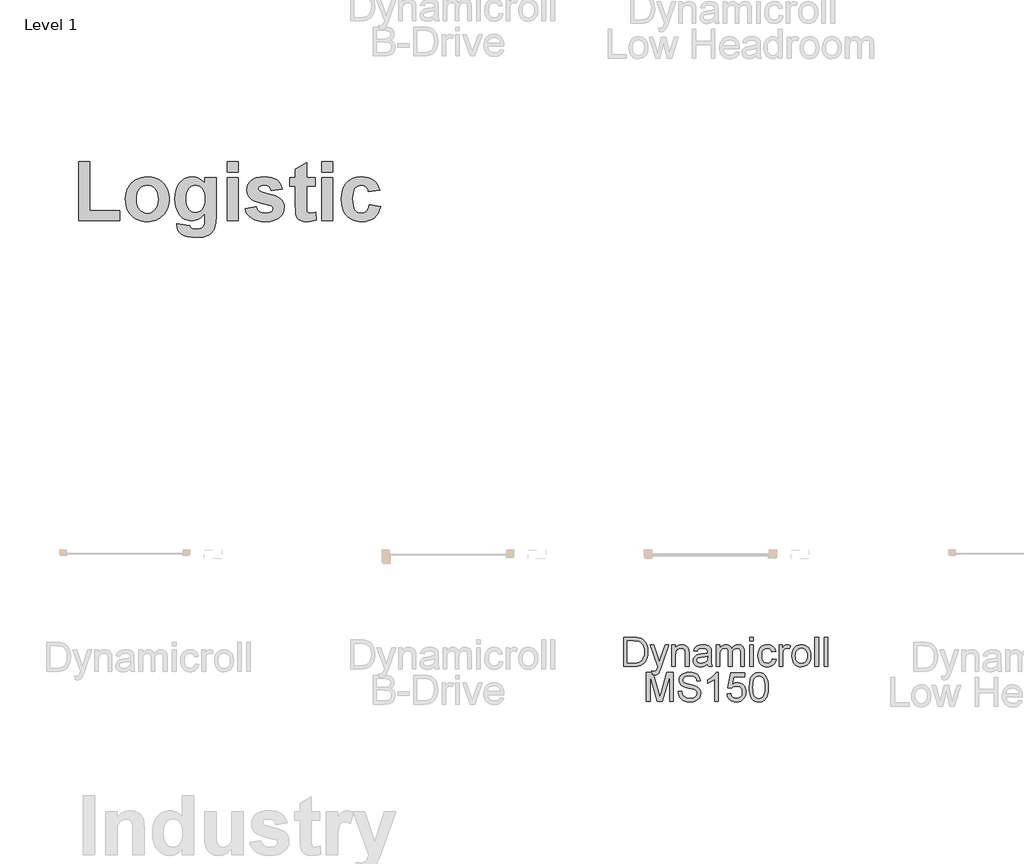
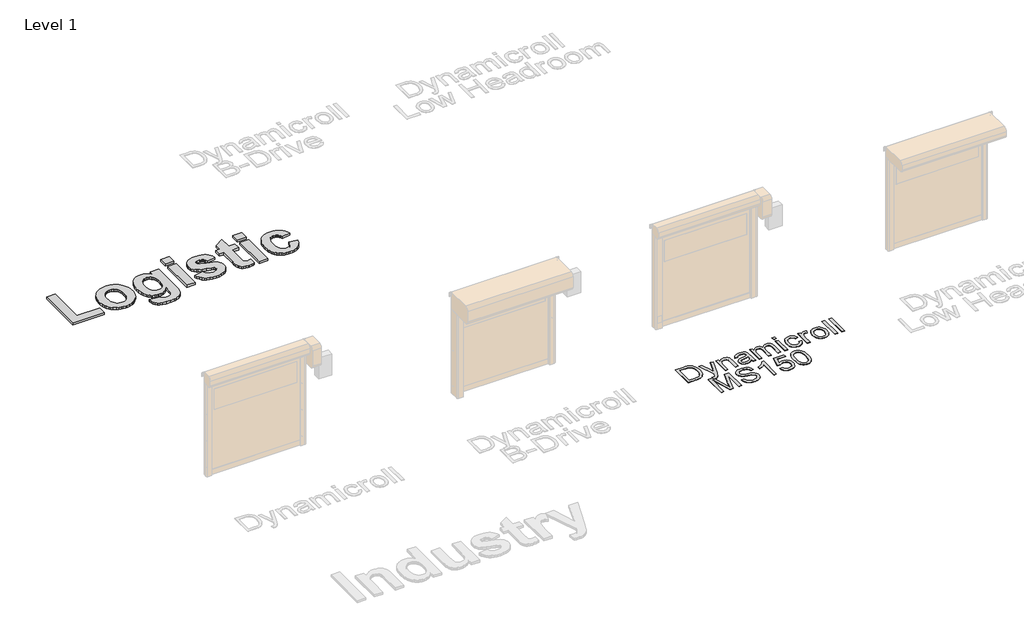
# One storey, part 7 of 17: 2 proxies.
"""IFC4 building model written with IfcOpenShell, lengths in millimetres."""

import ifcopenshell
import ifcopenshell.guid

model = None  # the IFC model being written
_history = None  # IfcOwnerHistory: only IFC2X3 demands one
_inside = {}  # id of a spatial element -> (the spatial element, [elements in it])
_under = {}  # id of a project, library or spatial element -> (it, [spatial elements below it])
_declared = {}  # id of a project -> (the project, [libraries it declares])
_typed = {}  # id of a type object -> (the type object, [elements of that type])
_made_of = {}  # id of a material, layer set ... -> (it, [elements and type objects made of it])


def new_model(schema):
    """Start an empty IFC model of exactly this schema.

    Asked for "IFC4X3", IfcOpenShell would pick the latest addendum, in which some entities
    have other attributes; the version numbers below select the first issue.
    IFC2X3 requires an IfcOwnerHistory on every rooted entity: one is made here for all.
    """
    global model, _history
    if schema == "IFC4X3":
        model = ifcopenshell.file(schema_version=(4, 3, 0, 0))
    else:
        model = ifcopenshell.file(schema=schema)
    _inside.clear()
    _under.clear()
    _declared.clear()
    _typed.clear()
    _made_of.clear()
    _history = None
    if model.schema == "IFC2X3":
        org = make("IfcOrganization", Name="unknown")
        user = make(
            "IfcPersonAndOrganization",
            ThePerson=make("IfcPerson", FamilyName="unknown"),
            TheOrganization=org,
        )
        app = make(
            "IfcApplication",
            ApplicationDeveloper=org,
            Version="unknown",
            ApplicationFullName="unknown",
            ApplicationIdentifier="unknown",
        )
        _history = make(
            "IfcOwnerHistory",
            OwningUser=user,
            OwningApplication=app,
            ChangeAction="ADDED",
            CreationDate=0,
        )
    return model


def make(cls, **values):
    """One entity of the class cls with the attributes given. An attribute that is None is left unset."""
    return model.create_entity(
        cls, **{name: value for name, value in values.items() if value is not None}
    )


def rooted(cls, **values):
    """An entity with a GlobalId (a new one), such as an element, a storey or a relation."""
    return make(cls, GlobalId=ifcopenshell.guid.new(), OwnerHistory=_history, **values)


def si_unit(unit_type, name, prefix=None):
    """IfcSIUnit, for example si_unit("LENGTHUNIT", "METRE", prefix="MILLI")."""
    return make("IfcSIUnit", UnitType=unit_type, Prefix=prefix, Name=name)


def assignment(units):
    """IfcUnitAssignment: the units of a project."""
    return None if units is None else make("IfcUnitAssignment", Units=units)


def point(xyz):
    """IfcCartesianPoint."""
    return None if xyz is None else make("IfcCartesianPoint", Coordinates=xyz)


def direction(xyz):
    """IfcDirection."""
    return None if xyz is None else make("IfcDirection", DirectionRatios=xyz)


def frame(location, z_axis=None, x_axis=None):
    """IfcAxis2Placement3D, a coordinate frame: its origin and axes. An axis left out is left unset."""
    return make(
        "IfcAxis2Placement3D",
        Location=point(location),
        Axis=direction(z_axis),
        RefDirection=direction(x_axis),
    )


def origin():
    """The frame at (0, 0, 0) with its axes left unset."""
    return frame((0.0, 0.0, 0.0))


def origin_with_axes():
    """The frame at (0, 0, 0) with the z axis (0, 0, 1) and the x axis (1, 0, 0) written out."""
    return frame((0.0, 0.0, 0.0), z_axis=(0.0, 0.0, 1.0), x_axis=(1.0, 0.0, 0.0))


def place(relative_to, where):
    """IfcLocalPlacement: puts the frame where relative to a parent placement (None: the world)."""
    return make(
        "IfcLocalPlacement", PlacementRelTo=relative_to, RelativePlacement=where
    )


def context(
    kind, dimensions, precision=None, world=None, true_north=None, identifier=None
):
    """IfcGeometricRepresentationContext, for example the 3D "Model" context."""
    return make(
        "IfcGeometricRepresentationContext",
        ContextIdentifier=identifier,
        ContextType=kind,
        CoordinateSpaceDimension=dimensions,
        Precision=precision,
        WorldCoordinateSystem=world,
        TrueNorth=true_north,
    )


def project(units=None, contexts=None):
    """IfcProject with its units and contexts."""
    return rooted(
        "IfcProject",
        Name="project",
        RepresentationContexts=contexts,
        UnitsInContext=assignment(units),
    )


def spatial(cls, under=None, at=None, **own):
    """A site, building, storey or space (cls), placed at a placement, below another one or the project."""
    s = rooted(cls, ObjectPlacement=at, **own)
    if under is not None:
        _under.setdefault(under.id(), (under, []))[1].append(s)
    return s


def polyline(points):
    """IfcPolyline through the points."""
    return make("IfcPolyline", Points=[point(p) for p in points])


def outline(outer, holes=None, kind="AREA"):
    """IfcArbitraryClosedProfileDef: a profile drawn as a closed curve; with holes, ...WithVoids."""
    if holes is None:
        return make("IfcArbitraryClosedProfileDef", ProfileType=kind, OuterCurve=outer)
    return make(
        "IfcArbitraryProfileDefWithVoids",
        ProfileType=kind,
        OuterCurve=outer,
        InnerCurves=holes,
    )


def extrude(swept, where, along, depth):
    """IfcExtrudedAreaSolid: the profile swept, set in the frame where, extruded along a direction by depth."""
    return make(
        "IfcExtrudedAreaSolid",
        SweptArea=swept,
        Position=where,
        ExtrudedDirection=direction(along),
        Depth=depth,
    )


def shape(context_of_items, identifier, shape_type, items):
    """IfcShapeRepresentation: the items that make up one representation, for example the "Body"."""
    return make(
        "IfcShapeRepresentation",
        ContextOfItems=context_of_items,
        RepresentationIdentifier=identifier,
        RepresentationType=shape_type,
        Items=items,
    )


def made_of(thing, what):
    """Note that an element or type object is made of a material, layer set ...; save() writes the relation."""
    if what is not None:
        _made_of.setdefault(what.id(), (what, []))[1].append(thing)
    return thing


def element(
    cls,
    number,
    at=None,
    inside=None,
    cuts=None,
    type_object=None,
    material=None,
    context=None,
    identifier="Body",
    shape_type=None,
    held_by="IfcProductDefinitionShape",
    body=None,
    shapes=None,
    **own,
):
    """One element of the class cls, such as IfcWall. Its Tag is "e" and its number.

    at: its placement. inside: the storey or other place that contains it. cuts: it is an
    opening in that element (IfcRelVoidsElement). A single representation is given by context,
    identifier, shape_type and body (its items); several are given by shapes. held_by: the class
    of the entity that holds the representations. save() writes the other relations.
    """
    e = rooted(cls, Tag="e%d" % number, ObjectPlacement=at, **own)
    if body is not None:
        shapes = [shape(context, identifier, shape_type, body)]
    if shapes is not None:
        e.Representation = make(held_by, Representations=shapes)
    if inside is not None:
        _inside.setdefault(inside.id(), (inside, []))[1].append(e)
    if cuts is not None:
        rooted(
            "IfcRelVoidsElement", RelatingBuildingElement=cuts, RelatedOpeningElement=e
        )
    if type_object is not None:
        _typed.setdefault(type_object.id(), (type_object, []))[1].append(e)
    return made_of(e, material)


def aggregate(whole, parts):
    """IfcRelAggregates: a whole, such as a stair, and the parts it consists of."""
    return rooted("IfcRelAggregates", RelatingObject=whole, RelatedObjects=parts)


def save(model, path):
    """Write the relations noted so far, then the file.

    IfcRelAggregates (storeys below a building ...), IfcRelContainedInSpatialStructure (elements
    in a storey), IfcRelDefinesByType, IfcRelAssociatesMaterial and IfcRelDeclares: one each for
    every whole, place, type object, material and project.
    """
    for whole, parts in _under.values():
        aggregate(whole, parts)
    for where, things in _inside.values():
        rooted(
            "IfcRelContainedInSpatialStructure",
            RelatedElements=things,
            RelatingStructure=where,
        )
    for kind, things in _typed.values():
        rooted("IfcRelDefinesByType", RelatedObjects=things, RelatingType=kind)
    for what, things in _made_of.values():
        rooted("IfcRelAssociatesMaterial", RelatedObjects=things, RelatingMaterial=what)
    for by, libraries in _declared.values():
        rooted("IfcRelDeclares", RelatingContext=by, RelatedDefinitions=libraries)
    model.write(path)


model = new_model("IFC4")

# Units and contexts
model_context = context("Model", 3, world=origin())
ifc_project = project(units=[si_unit("LENGTHUNIT", "METRE", prefix="MILLI")], contexts=[model_context])

# Site, building, storey
site = spatial("IfcSite", under=ifc_project)
building = spatial("IfcBuilding", under=site)
storey = spatial("IfcBuildingStorey", under=building, Name="Level 1", Elevation=0.0)

# Proxies
placement = place(None, origin())
element("IfcBuildingElementProxy", 1, Name="1000", ObjectType="1000", at=placement, inside=storey, context=model_context, shape_type="SweptSolid", body=[
    extrude(outline(polyline([(688.190889, 26929.161289), (688.190889, 27949.4206889), (882.5260128, 27949.4206889), (882.5260128, 27107.3018191), (1400.7530096, 27107.3018191), (1400.7530096, 26929.161289), (688.190889, 26929.161289)])), origin_with_axes(), (0.0, 0.0, 1.0), 50.0),
    extrude(outline(polyline([(1497.9205715, 27312.264645), (1500.9175203, 27360.8405185), (1509.9083664, 27408.6414553), (1524.8931101, 27455.6674555), (1545.8717512, 27501.9185191), (1572.3382087, 27545.0698363), (1603.7864015, 27582.7965971), (1640.2163297, 27615.0988018), (1681.6279933, 27641.9764501), (1726.8115421, 27663.121149), (1774.5571264, 27678.2245054), (1824.8647459, 27687.2865193), (1877.7344007, 27690.3071905), (1918.6656827, 27688.5952132), (1957.7031144, 27683.4592813), (1994.846696, 27674.8993948), (2030.0964273, 27662.9155536), (2063.4523085, 27647.5077579), (2094.9143395, 27628.6760075), (2124.4825203, 27606.4203025), (2152.156851, 27580.7406429), (2177.2137936, 27552.4435953), (2198.9298106, 27522.3357265), (2217.3049019, 27490.4170364), (2232.3390676, 27456.6875251), (2244.0323075, 27421.1471925), (2252.3846217, 27383.7960387), (2257.3960102, 27344.6340635), (2259.0664731, 27303.6612671), (2257.3782183, 27262.3701932), (2252.3134541, 27222.8859868), (2243.8721803, 27185.2086479), (2232.054397, 27149.3381765), (2216.8601041, 27115.2745726), (2198.2893018, 27083.0178362), (2176.34199, 27052.5679673), (2151.0181686, 27023.9249659), (2123.1362657, 26997.9191212), (2093.5147091, 26975.3807225), (2062.1534989, 26956.3097698), (2029.0526352, 26940.706263), (1994.2121178, 26928.5702021), (1957.6319468, 26919.9015872), (1919.3121221, 26914.7004183), (1879.2526439, 26912.9666953), (1829.1110822, 26915.8529388), (1780.155648, 26924.5116693), (1732.3863412, 26938.9428868), (1685.8031619, 26959.1465913), (1642.5648621, 26984.9330024), (1604.8301937, 27016.1123397), (1572.5991567, 27052.6846031), (1545.8717512, 27094.6497928), (1524.8931101, 27141.7469607), (1509.9083664, 27193.7151587), (1500.9175203, 27250.5543868), (1497.9205715, 27312.264645)]), holes=[polyline([(1692.2556953, 27301.6369429), (1695.6163898, 27246.2447903), (1705.6984733, 27197.732177), (1722.5019457, 27156.099103), (1746.0268071, 27121.3455683), (1774.4859587, 27093.9460239), (1806.0923019, 27074.3749207), (1840.8458366, 27062.6322588), (1878.7465628, 27058.7180382), (1916.6314741, 27062.6322588), (1951.3375637, 27074.3749207), (1982.8648317, 27093.9460239), (2011.2132781, 27121.3455683), (2034.6274342, 27156.1939932), (2051.3518315, 27198.1117378), (2061.3864698, 27247.0988021), (2064.7313493, 27303.1551861), (2061.3864698, 27357.8831073), (2051.3518315, 27405.9212696), (2034.6274342, 27447.269673), (2011.2132781, 27481.9283176), (1982.8648317, 27509.327862), (1951.3375637, 27528.8989652), (1916.6314741, 27540.6416271), (1878.7465628, 27544.5558477), (1840.8458366, 27540.6416271), (1806.0923019, 27528.8989652), (1774.4859587, 27509.327862), (1746.0268071, 27481.9283176), (1722.5019457, 27447.1747828), (1705.6984733, 27405.5417088), (1695.6163898, 27357.0290955), (1692.2556953, 27301.6369429)])]), origin_with_axes(), (0.0, 0.0, 1.0), 50.0),
    extrude(outline(polyline([(2388.6232223, 26880.577508), (2615.3475334, 26848.1883207), (2624.0141714, 26819.5947413), (2639.3863833, 26801.628864), (2654.3948495, 26793.6580874), (2673.1040334, 26787.9646756), (2721.6245542, 26783.4099461), (2755.3105742, 26784.8491141), (2784.5051249, 26789.1666181), (2809.2082062, 26796.362458), (2829.4198182, 26806.436634), (2850.5487021, 26826.6166159), (2865.8576539, 26856.2856176), (2872.3101873, 26891.2052101), (2874.4610318, 26946.8741258), (2874.4610318, 27055.4285113), (2849.912147, 27025.8346311), (2824.3431927, 27000.1866016), (2797.7541687, 26978.4844227), (2770.145075, 26960.7280946), (2741.5159118, 26946.9176171), (2711.866679, 26937.0529904), (2681.1973765, 26931.1342143), (2649.5080044, 26929.161289), (2614.5132904, 26931.1421218), (2581.3926578, 26937.0846204), (2550.1461067, 26946.9887848), (2520.7736369, 26960.8546148), (2493.2752485, 26978.6821106), (2467.6509415, 27000.4712722), (2443.9007159, 27026.2220994), (2422.0245717, 27055.9345924), (2393.2412119, 27109.1047329), (2372.6816692, 27168.4111061), (2360.3459435, 27233.8537121), (2356.234035, 27305.4325508), (2361.6190537, 27393.5301914), (2368.350327, 27433.4334962), (2377.7741098, 27470.573124), (2389.8904018, 27504.9490748), (2404.6992032, 27536.5613486), (2422.2005139, 27565.4099454), (2442.394334, 27591.4948652), (2488.1076865, 27634.7252575), (2512.939265, 27651.708626), (2539.0874449, 27665.6041092), (2566.5522264, 27676.4117073), (2595.3336093, 27684.1314202), (2625.4315937, 27688.763248), (2656.8461796, 27690.3071905), (2689.1404767, 27688.4766005), (2719.9797908, 27682.9848303), (2749.3641219, 27673.8318801), (2777.2934699, 27661.0177497), (2803.7678349, 27644.5424392), (2828.7872169, 27624.4059486), (2852.3516159, 27600.6082779), (2874.4610318, 27573.1494271), (2874.4610318, 27674.1125969), (3068.7961556, 27674.1125969), (3068.7961556, 27012.411622), (3063.5139346, 26898.5117553), (3056.9111584, 26853.873825), (3047.6672717, 26817.4438969), (3036.0432225, 26786.8655308), (3022.299959, 26759.782287), (3006.437481, 26736.1941655), (2988.4557887, 26716.1011663), (2967.8171708, 26698.7441677), (2943.9839163, 26683.3640483), (2886.7334973, 26658.5344467), (2852.8023443, 26649.4012652), (2814.6485775, 26642.8775641), (2725.6732026, 26637.6586033), (2640.3827304, 26641.5491014), (2568.471776, 26653.2205956), (2509.9403394, 26672.673086), (2485.6919402, 26685.3172048), (2464.7884206, 26699.9065726), (2431.1340306, 26733.1181416), (2407.0951807, 26770.5048793), (2392.6718707, 26812.0667857), (2387.8641007, 26857.8038607), (2388.6232223, 26880.577508)]), holes=[polyline([(2550.5691588, 27312.7707261), (2553.3763271, 27255.1723764), (2561.7978321, 27205.8611039), (2575.8336738, 27164.8369087), (2595.4838521, 27132.0997907), (2619.261754, 27107.0804087), (2645.6807664, 27089.2094215), (2674.7408893, 27078.4868293), (2706.4421227, 27074.9126318), (2740.3732757, 27078.5817195), (2771.568428, 27089.5889823), (2800.0275796, 27107.9344204), (2825.7507306, 27133.6180338), (2847.0614874, 27166.4974871), (2862.2834565, 27206.4304451), (2871.416638, 27253.4169077), (2874.4610318, 27307.456875), (2871.5431582, 27363.7979296), (2862.7895375, 27412.373803), (2848.2001697, 27453.1844953), (2827.7750548, 27486.2300065), (2802.8901006, 27511.747562), (2774.921215, 27529.9743874), (2743.8683979, 27540.9104826), (2709.7316495, 27544.5558477), (2676.5912482, 27540.9816503), (2646.5031481, 27530.259058), (2619.4673495, 27512.3880708), (2595.4838521, 27487.3686889), (2575.8336738, 27455.0111316), (2561.7978321, 27415.1256187), (2553.3763271, 27367.7121502), (2550.5691588, 27312.7707261)])]), origin_with_axes(), (0.0, 0.0, 1.0), 50.0),
    extrude(outline(polyline([(3263.1312794, 27771.2801588), (3263.1312794, 27949.4206889), (3457.4664032, 27949.4206889), (3457.4664032, 27771.2801588), (3263.1312794, 27771.2801588)])), origin_with_axes(), (0.0, 0.0, 1.0), 50.0),
    extrude(outline(polyline([(3263.1312794, 26929.161289), (3263.1312794, 27674.1125969), (3457.4664032, 27674.1125969), (3457.4664032, 26929.161289), (3263.1312794, 26929.161289)])), origin_with_axes(), (0.0, 0.0, 1.0), 50.0),
    extrude(outline(polyline([(3570.8285588, 27139.6910064), (3765.1636826, 27172.0801937), (3772.826066, 27145.9221294), (3783.667271, 27123.116852), (3797.6872976, 27103.6643616), (3814.8861459, 27087.5646581), (3835.5326713, 27074.9442619), (3859.8957294, 27065.9296932), (3887.9753202, 27060.5209519), (3919.7714438, 27058.7180382), (3954.5487011, 27060.4418768), (3984.7395988, 27065.6133925), (4010.344137, 27074.2325854), (4031.3623157, 27086.2994555), (4042.4328387, 27096.7373772), (4050.3403551, 27108.8200623), (4055.084865, 27122.5475108), (4056.6663683, 27137.9197228), (4053.3135813, 27158.0364446), (4043.2552204, 27174.3575585), (4020.2917927, 27187.7054462), (3979.7420484, 27199.9146516), (3875.3786466, 27225.3135943), (3792.0492384, 27249.6371149), (3729.753824, 27272.8852132), (3688.4924032, 27295.0578893), (3651.1847407, 27328.0954929), (3624.5364104, 27366.9846587), (3608.5474121, 27411.7253867), (3603.2177461, 27462.3176768), (3607.7882906, 27508.608278), (3621.499924, 27551.0716412), (3644.3526465, 27589.7077665), (3676.346458, 27624.5166538), (3717.9558095, 27653.3000136), (3769.6551519, 27673.8595564), (3831.4444853, 27686.195282), (3903.3238096, 27690.3071905), (3971.7554568, 27686.9860336), (4030.7929745, 27677.0225629), (4080.4363626, 27660.4167784), (4120.6856213, 27637.1686801), (4153.4701844, 27607.4047883), (4180.719486, 27571.2516232), (4202.4335261, 27528.7091848), (4218.6123048, 27479.7774731), (4024.277181, 27447.3882858), (4009.9803913, 27488.9501921), (3999.5108395, 27505.6034217), (3986.8271831, 27519.5048356), (3971.5814915, 27530.4646534), (3953.4258337, 27538.2930947), (3932.36021, 27542.9901594), (3908.3846201, 27544.5558477), (3853.0320051, 27539.2419966), (3832.2352369, 27532.5996828), (3816.0248282, 27523.3004435), (3802.1708595, 27505.8406472), (3797.5528699, 27483.8261215), (3802.1708595, 27464.7848219), (3816.0248282, 27448.6534884), (3836.0703824, 27438.0416014), (3871.4090733, 27425.4370202), (3987.9658655, 27394.2497754), (4055.9784143, 27375.6354817), (4112.872995, 27354.9652337), (4158.6496077, 27332.2390315), (4193.3082522, 27307.456875), (4218.5490446, 27278.6893303), (4236.5781821, 27244.7660848), (4247.3956646, 27205.6871386), (4251.0014921, 27161.4524917), (4245.7746237, 27112.2598319), (4230.0940186, 27066.6571847), (4203.9596768, 27024.6445499), (4167.3715983, 26986.2219275), (4145.2088066, 26969.0527325), (4120.5353785, 26954.1727635), (4063.6566128, 26931.2805034), (3996.7353012, 26917.5451473), (3919.7714438, 26912.9666953), (3849.2601198, 26916.7781183), (3786.5139769, 26928.212387), (3731.5330152, 26947.2695016), (3684.3172346, 26973.949462), (3644.7242998, 27007.1768461), (3612.6118756, 27045.8762315), (3587.9799619, 27090.0476183), (3570.8285588, 27139.6910064)])), origin_with_axes(), (0.0, 0.0, 1.0), 50.0),
    extrude(outline(polyline([(4785.4230825, 27674.1125969), (4785.4230825, 27528.361254), (4639.6717397, 27528.361254), (4639.6717397, 27208.77107), (4640.778792, 27132.0681606), (4644.0999489, 27095.7884752), (4651.3432339, 27081.1121247), (4664.2166707, 27069.21922), (4681.6132068, 27061.3433336), (4702.4257901, 27058.7180382), (4740.88795, 27063.3992879), (4793.5203793, 27077.4430371), (4801.6176762, 26939.28291), (4765.2905457, 26927.7695661), (4726.6544204, 26919.545749), (4685.7093003, 26914.6114588), (4642.4551854, 26912.9666953), (4590.7083979, 26917.5214248), (4544.2754614, 26931.1856132), (4506.3510126, 26952.0614566), (4480.1296882, 26978.251151), (4462.8280422, 27012.2218416), (4451.662629, 27056.4406735), (4446.9181191, 27109.2628832), (4445.3366159, 27197.8903274), (4445.3366159, 27528.361254), (4348.169054, 27528.361254), (4348.169054, 27674.1125969), (4445.3366159, 27674.1125969), (4445.3366159, 27819.8639397), (4639.6717397, 27933.2260953), (4639.6717397, 27674.1125969), (4785.4230825, 27674.1125969)])), origin_with_axes(), (0.0, 0.0, 1.0), 50.0),
    extrude(outline(polyline([(4898.7852381, 27771.2801588), (4898.7852381, 27949.4206889), (5093.1203619, 27949.4206889), (5093.1203619, 27771.2801588), (4898.7852381, 27771.2801588)])), origin_with_axes(), (0.0, 0.0, 1.0), 50.0),
    extrude(outline(polyline([(4898.7852381, 26929.161289), (4898.7852381, 27674.1125969), (5093.1203619, 27674.1125969), (5093.1203619, 26929.161289), (4898.7852381, 26929.161289)])), origin_with_axes(), (0.0, 0.0, 1.0), 50.0),
    extrude(outline(polyline([(5902.8500444, 27463.5828794), (5708.5149206, 27431.1936921), (5702.5131156, 27457.6601496), (5693.6171596, 27480.6314849), (5681.8270526, 27500.1076978), (5667.1427946, 27516.0887885), (5649.8016111, 27528.5431269), (5630.0407275, 27537.4390829), (5607.8601439, 27542.7766565), (5583.2598603, 27544.5558477), (5550.7125227, 27541.2188758), (5521.6444923, 27531.20796), (5496.0557691, 27514.5231003), (5473.9463532, 27491.1642967), (5456.1228111, 27459.992867), (5443.3917097, 27419.8701286), (5435.7530488, 27370.7960816), (5433.2068285, 27312.7707261), (5435.8558465, 27248.2928371), (5443.8029005, 27194.0314593), (5457.0479906, 27149.9865928), (5475.5911166, 27116.1582375), (5498.5940819, 27091.0281503), (5525.2186897, 27073.078088), (5555.4649401, 27062.3080506), (5589.3328329, 27058.7180382), (5614.8187584, 27060.7660849), (5637.8849838, 27066.9102252), (5658.5315092, 27077.150459), (5676.7583346, 27091.4867863), (5692.5180148, 27110.836479), (5705.7631049, 27136.116809), (5716.4936046, 27167.3277764), (5724.7095142, 27204.469381), (5919.044638, 27172.0801937), (5901.1341133, 27111.8644561), (5876.5021996, 27059.5087898), (5845.148897, 27015.0131949), (5807.0742054, 26978.3776712), (5762.1199745, 26949.7603693), (5710.1280539, 26929.3194393), (5651.0984438, 26917.0548813), (5585.031144, 26912.9666953), (5546.4958395, 26914.5758749), (5509.9650905, 26919.4034137), (5475.4388969, 26927.4493117), (5442.9172587, 26938.7135688), (5412.4001759, 26953.1961852), (5383.8876485, 26970.8971607), (5357.3796766, 26991.8164954), (5332.87626, 27015.9541893), (5310.8439424, 27042.9346354), (5291.7492671, 27072.3822266), (5275.5922341, 27104.2969629), (5262.3728435, 27138.6788443), (5252.0910953, 27175.5278709), (5244.7469894, 27214.8440426), (5238.8717047, 27300.8778214), (5244.7074518, 27387.8842246), (5252.0021357, 27427.5621652), (5262.2146932, 27464.6899317), (5275.3451243, 27499.2675242), (5291.3934288, 27531.2949426), (5310.359607, 27560.772187), (5332.2436587, 27587.6992573), (5356.6185781, 27611.7479917), (5383.0573593, 27632.5902281), (5411.5600023, 27650.2259666), (5442.1265071, 27664.6552072), (5474.7568736, 27675.8779499), (5509.4511019, 27683.8941947), (5546.2091921, 27688.7039416), (5585.031144, 27690.3071905), (5646.8521074, 27686.8041608), (5701.999127, 27676.2950714), (5750.4722027, 27658.7799225), (5792.2713346, 27634.2587141), (5828.0291239, 27602.5732957), (5858.378172, 27563.5655172), (5883.3184788, 27517.2353784), (5902.8500444, 27463.5828794)])), origin_with_axes(), (0.0, 0.0, 1.0), 50.0),
])
element("IfcBuildingElementProxy", 2, Name="500mm", ObjectType="500mm", at=placement, inside=storey, context=model_context, shape_type="SweptSolid", body=[
    extrude(outline(polyline([(10134.2260826, 19203.3584781), (10134.2260826, 19705.6400289), (10307.4985024, 19705.6400289), (10359.2778932, 19703.8312757), (10397.1390818, 19698.4050163), (10437.1769057, 19684.4561573), (10470.9607355, 19662.4752081), (10489.5770973, 19644.510304), (10505.6949273, 19624.2154806), (10519.3142253, 19601.5907379), (10530.4349914, 19576.6360759), (10545.2422417, 19520.656699), (10550.1779918, 19457.1970548), (10546.836397, 19403.2870141), (10536.8116127, 19355.8455651), (10521.5445099, 19315.4551877), (10502.4759598, 19282.6983617), (10480.5256674, 19256.8393232), (10456.6133377, 19237.142308), (10429.1601438, 19222.5343271), (10396.5872589, 19211.9423913), (10358.8333691, 19205.5044564), (10315.8371609, 19203.3584781), (10134.2260826, 19203.3584781)]), holes=[polyline([(10197.0112765, 19266.143672), (10308.111639, 19266.143672), (10354.0662316, 19268.4122776), (10388.9230506, 19275.2180945), (10415.2266133, 19286.1625839), (10435.5214367, 19300.8472068), (10457.3337733, 19328.0244892), (10473.7198505, 19363.203205), (10483.9745611, 19406.5366384), (10487.392798, 19458.1780734), (10485.7181685, 19494.6290478), (10480.69428, 19526.6041245), (10472.3211325, 19554.1033037), (10460.598726, 19577.1265852), (10446.4774223, 19596.1951353), (10430.9075833, 19611.8301201), (10413.8892089, 19624.0315396), (10395.4222992, 19632.7993938), (10359.30855, 19640.3409747), (10306.3948564, 19642.854835), (10197.0112765, 19642.854835), (10197.0112765, 19266.143672)])]), origin_with_axes(), (0.0, 0.0, 1.0), 5.0),
    extrude(outline(polyline([(10628.6594841, 19062.091792), (10620.8113349, 19122.5470665), (10652.6944412, 19117.0288366), (10669.4637288, 19118.7609476), (10682.4928828, 19123.9572808), (10692.6402945, 19132.2499541), (10700.7643552, 19143.2710856), (10717.9321816, 19189.5015896), (10722.8372749, 19204.7073788), (10589.418738, 19572.2214919), (10655.6374971, 19572.2214919), (10726.3934675, 19367.433848), (10751.0415612, 19285.5187904), (10775.6896549, 19357.8689161), (10848.4076626, 19572.2214919), (10914.1359124, 19572.2214919), (10785.7450961, 19194.5293102), (10752.3904619, 19112.6142526), (10735.3146059, 19086.4639742), (10715.9701443, 19068.3457859), (10693.4986858, 19057.7691785), (10667.041839, 19054.2436427), (10648.862337, 19056.20568), (10628.6594841, 19062.091792)])), origin_with_axes(), (0.0, 0.0, 1.0), 5.0),
    extrude(outline(polyline([(10966.1299011, 19203.3584781), (10966.1299011, 19572.2214919), (11028.9150949, 19572.2214919), (11028.9150949, 19520.7180126), (11050.7274315, 19546.6843501), (11076.9236953, 19565.231734), (11107.5038861, 19576.3601644), (11142.4680041, 19580.0696412), (11173.4160769, 19577.0806), (11201.758319, 19568.1134763), (11225.3947372, 19554.2872447), (11242.2253384, 19536.7208794), (11253.6450087, 19515.4603658), (11261.0486339, 19490.551689), (11264.3595718, 19429.8511598), (11264.3595718, 19203.3584781), (11201.574378, 19203.3584781), (11201.574378, 19421.3898739), (11199.7656248, 19453.85546), (11194.3393654, 19476.9400552), (11184.3299094, 19493.4794166), (11168.7715667, 19506.3093011), (11148.8292969, 19514.5406608), (11125.6680596, 19517.2844473), (11106.6033416, 19515.7439415), (11088.8951885, 19511.1224239), (11072.5436003, 19503.4198946), (11057.5485769, 19492.6363537), (11045.0214285, 19477.5455276), (11036.0734654, 19456.9211433), (11030.7046875, 19430.7632006), (11028.9150949, 19399.0716996), (11028.9150949, 19203.3584781), (10966.1299011, 19203.3584781)])), origin_with_axes(), (0.0, 0.0, 1.0), 5.0),
    extrude(outline(polyline([(11586.1336903, 19250.4473735), (11556.1359792, 19224.7262907), (11525.2492201, 19207.8956894), (11492.7683056, 19198.606669), (11457.9881286, 19195.5103289), (11430.0329291, 19197.3727315), (11405.518959, 19202.9599393), (11384.4462185, 19212.2719523), (11366.8147075, 19225.3087705), (11352.8926732, 19241.2426594), (11342.948363, 19259.2458846), (11336.9817769, 19279.3184459), (11334.9929149, 19301.4603435), (11337.9972845, 19327.4879947), (11347.0103934, 19351.1244128), (11360.9132671, 19371.3579226), (11378.5869313, 19387.1768484), (11399.3569356, 19399.1330132), (11422.5488297, 19407.7782401), (11476.8727377, 19417.2205446), (11541.0681458, 19427.1533585), (11585.7658083, 19438.802955), (11586.1336903, 19452.7824708), (11581.8110768, 19480.8028161), (11568.8432365, 19499.1356022), (11555.7680972, 19507.075722), (11539.8418725, 19512.7472361), (11499.4361667, 19517.2844473), (11462.0348305, 19514.2647493), (11435.9152089, 19505.2056552), (11418.103589, 19488.451696), (11405.626258, 19462.3474027), (11342.8410641, 19470.195552), (11353.7395682, 19504.5312048), (11370.0030181, 19531.5092178), (11393.148927, 19552.1412664), (11424.694808, 19567.439026), (11463.2764323, 19576.9119874), (11507.5295706, 19580.0696412), (11549.9739558, 19577.2798694), (11583.61983, 19568.910554), (11608.9883592, 19556.3259241), (11626.6007097, 19540.8902087), (11638.2809631, 19521.8063302), (11645.8532008, 19498.2772109), (11648.9188841, 19443.3401663), (11648.9188841, 19365.226556), (11652.1071947, 19256.1495444), (11656.828347, 19229.1868599), (11664.6151826, 19203.3584781), (11601.8299887, 19203.3584781), (11591.7745475, 19225.1861432), (11586.1336903, 19250.4473735)]), holes=[polyline([(11586.1336903, 19376.0177612), (11543.9498881, 19365.5637812), (11484.8435143, 19356.7652701), (11430.8261746, 19346.5872016), (11416.7700167, 19339.6281005), (11406.3620219, 19330.0325118), (11399.924087, 19318.5361994), (11397.7781087, 19305.8749274), (11402.4532757, 19287.2049162), (11416.4787768, 19271.9071566), (11439.5480436, 19261.6984312), (11471.3545078, 19258.2955227), (11505.077024, 19262.0509848), (11534.8754656, 19273.3173709), (11559.0330499, 19289.9180459), (11575.8329944, 19309.6763747), (11583.2826048, 19330.0325118), (11585.7658083, 19358.2367981), (11586.1336903, 19376.0177612)])]), origin_with_axes(), (0.0, 0.0, 1.0), 5.0),
    extrude(outline(polyline([(11735.2485256, 19203.3584781), (11735.2485256, 19572.2214919), (11798.0337195, 19572.2214919), (11798.0337195, 19511.5209627), (11816.9183286, 19539.4033523), (11841.1985402, 19561.2463458), (11870.04662, 19575.3638173), (11902.6348334, 19580.0696412), (11937.5529661, 19575.2718468), (11965.5426546, 19560.8784638), (11986.4506147, 19537.8398538), (12000.1235622, 19507.1063788), (12023.0088879, 19539.0278061), (12049.1131812, 19561.8288256), (12078.4364419, 19575.5094373), (12110.97867, 19580.0696412), (12136.1134409, 19578.1727496), (12158.1748643, 19572.482075), (12177.1629402, 19562.9976173), (12193.0776686, 19549.7193766), (12205.6584664, 19532.4940686), (12214.6447506, 19511.1684092), (12220.0365211, 19485.7423984), (12221.8337779, 19456.2160361), (12221.8337779, 19203.3584781), (12159.0485841, 19203.3584781), (12159.0485841, 19429.2380232), (12157.5923845, 19460.553978), (12153.2237858, 19481.6612075), (12145.0384114, 19496.1159042), (12132.1318848, 19507.4742608), (12115.5312097, 19514.8319007), (12096.2633902, 19517.2844473), (12078.4709308, 19515.7132846), (12062.2496341, 19510.9997966), (12047.5995001, 19503.1439831), (12034.5205287, 19492.1458443), (12023.7638125, 19477.6834834), (12016.0804437, 19459.4350036), (12011.4704225, 19437.4004049), (12009.9337487, 19411.5796874), (12009.9337487, 19203.3584781), (11947.1485549, 19203.3584781), (11947.1485549, 19436.2277811), (11943.5157202, 19471.7283936), (11932.617216, 19497.0509376), (11924.1904191, 19505.9030981), (11913.441367, 19512.2260699), (11884.9764977, 19517.2844473), (11860.7882565, 19513.9121957), (11838.5007389, 19503.7954408), (11820.1066392, 19487.1794374), (11807.5986514, 19464.30944), (11800.4249524, 19432.5796179), (11798.0337195, 19389.3841403), (11798.0337195, 19203.3584781), (11735.2485256, 19203.3584781)])), origin_with_axes(), (0.0, 0.0, 1.0), 5.0),
    extrude(outline(polyline([(12316.0115687, 19642.854835), (12316.0115687, 19705.6400289), (12378.7967625, 19705.6400289), (12378.7967625, 19642.854835), (12316.0115687, 19642.854835)])), origin_with_axes(), (0.0, 0.0, 1.0), 5.0),
    extrude(outline(polyline([(12316.0115687, 19203.3584781), (12316.0115687, 19572.2214919), (12378.7967625, 19572.2214919), (12378.7967625, 19203.3584781), (12316.0115687, 19203.3584781)])), origin_with_axes(), (0.0, 0.0, 1.0), 5.0),
    extrude(outline(polyline([(12708.4190302, 19336.777015), (12771.2042241, 19328.9288658), (12764.3754145, 19299.3028689), (12753.6991724, 19273.0874446), (12739.1754978, 19250.282593), (12720.8043907, 19230.8883141), (12699.3599361, 19215.4104456), (12675.616219, 19204.3548252), (12649.5732394, 19197.721453), (12621.2309974, 19195.5103289), (12586.0177926, 19198.5951727), (12554.4450868, 19207.8497041), (12526.5128799, 19223.2739232), (12502.2211719, 19244.8678299), (12482.5586457, 19272.2252212), (12468.5139841, 19304.939894), (12460.0871872, 19343.0118484), (12457.2782548, 19386.4410844), (12462.0760492, 19442.3131624), (12476.4694322, 19490.73563), (12487.3219511, 19511.6857432), (12500.6883303, 19529.8384204), (12516.5685697, 19545.1936616), (12534.9626695, 19557.7514668), (12575.9661835, 19574.4900976), (12620.372606, 19580.0696412), (12648.2281709, 19578.1535891), (12673.4242554, 19572.4054329), (12695.9608597, 19562.8251727), (12715.8379838, 19549.4128082), (12732.7184024, 19532.4749081), (12746.2648905, 19512.3180404), (12756.4774479, 19488.9422053), (12763.3560748, 19462.3474027), (12700.570881, 19454.4992535), (12689.1818675, 19481.8911337), (12671.4468897, 19501.5268352), (12648.3469661, 19513.3450443), (12620.8631154, 19517.2844473), (12599.5297917, 19515.3454027), (12580.288797, 19509.5282686), (12563.1401311, 19499.8330452), (12548.083794, 19486.2597324), (12535.8248929, 19468.4940977), (12527.068535, 19446.2219086), (12521.8147203, 19419.443165), (12520.0634487, 19388.157867), (12521.7763992, 19356.4012202), (12526.9152508, 19329.3120762), (12535.4800035, 19306.890435), (12547.4706573, 19289.1362967), (12562.2280903, 19275.6434581), (12579.0931805, 19266.0057162), (12598.065928, 19260.2230711), (12619.1463327, 19258.2955227), (12651.657904, 19263.1086455), (12678.3140203, 19277.5480138), (12689.0937291, 19288.4695105), (12697.7044671, 19301.9815097), (12708.4190302, 19336.777015)])), origin_with_axes(), (0.0, 0.0, 1.0), 5.0),
    extrude(outline(polyline([(12826.1412687, 19203.3584781), (12826.1412687, 19572.2214919), (12881.0783133, 19572.2214919), (12881.0783133, 19517.6523293), (12901.3731367, 19549.2901809), (12920.0738048, 19567.9295353), (12938.8357865, 19577.0346147), (12959.3145509, 19580.0696412), (12990.5845205, 19575.2258616), (13022.3449994, 19560.6945228), (13001.3757257, 19504.4085775), (12979.302806, 19514.0654799), (12957.2298863, 19517.2844473), (12938.4832329, 19514.1881072), (12921.7292737, 19504.8990868), (12908.194282, 19490.1224934), (12899.104531, 19470.5634339), (12891.4709796, 19435.4920171), (12888.9264625, 19397.2322896), (12888.9264625, 19203.3584781), (12826.1412687, 19203.3584781)])), origin_with_axes(), (0.0, 0.0, 1.0), 5.0),
    extrude(outline(polyline([(13045.8894471, 19387.789985), (13049.2846914, 19435.5609949), (13059.4704241, 19476.7254574), (13076.4466453, 19511.2833723), (13100.2133551, 19539.2347397), (13124.1410132, 19557.1000091), (13150.5518747, 19569.8609158), (13179.4459398, 19577.5174598), (13210.8232083, 19580.0696412), (13245.4615974, 19576.9618047), (13276.7813843, 19567.6382954), (13304.7825691, 19552.0991132), (13329.4651517, 19530.3442582), (13349.6105231, 19503.1094942), (13364.000074, 19471.1305854), (13372.6338046, 19434.4075316), (13375.5117148, 19392.940333), (13370.4226805, 19329.5113456), (13364.0613877, 19303.4760303), (13355.1555777, 19281.2268338), (13343.8163816, 19262.0088316), (13330.1549305, 19245.0670993), (13314.1712242, 19230.4016369), (13295.8652628, 19218.0124443), (13255.1376603, 19201.1358577), (13210.8232083, 19195.5103289), (13175.6789814, 19198.606669), (13144.0679546, 19207.8956894), (13115.9901277, 19223.37739), (13091.4455009, 19245.0517709), (13071.5147273, 19272.55095), (13057.2784606, 19305.5070454), (13048.7367005, 19343.9200571), (13045.8894471, 19387.789985)]), holes=[polyline([(13108.674641, 19387.9126124), (13110.4910583, 19357.458881), (13115.9403104, 19331.0901725), (13125.0223971, 19308.8064871), (13137.7373186, 19290.6078246), (13153.2036908, 19276.4711926), (13170.5401298, 19266.3735982), (13189.7466356, 19260.3150416), (13210.8232083, 19258.2955227), (13231.792482, 19260.3265379), (13250.9223458, 19266.4195835), (13268.2127995, 19276.5746594), (13283.6638433, 19290.7917656), (13296.3787648, 19309.170537), (13305.4608515, 19331.8106081), (13310.9101036, 19358.711979), (13312.726521, 19389.8746497), (13310.8986073, 19419.3626908), (13305.4148663, 19445.0416205), (13296.275298, 19466.9114387), (13283.4799023, 19484.9721454), (13267.971377, 19499.1087775), (13250.6924195, 19509.2063719), (13231.64303, 19515.2649285), (13210.8232083, 19517.2844473), (13189.7466356, 19515.2725927), (13170.5401298, 19509.2370287), (13153.2036908, 19499.1777554), (13137.7373186, 19485.0947728), (13125.0223971, 19466.9497598), (13115.9403104, 19444.7043954), (13110.4910583, 19418.3586796), (13108.674641, 19387.9126124)])]), origin_with_axes(), (0.0, 0.0, 1.0), 5.0),
    extrude(outline(polyline([(13446.1450579, 19203.3584781), (13446.1450579, 19705.6400289), (13508.9302517, 19705.6400289), (13508.9302517, 19203.3584781), (13446.1450579, 19203.3584781)])), origin_with_axes(), (0.0, 0.0, 1.0), 5.0),
    extrude(outline(polyline([(13603.1080425, 19203.3584781), (13603.1080425, 19705.6400289), (13665.8932363, 19705.6400289), (13665.8932363, 19203.3584781), (13603.1080425, 19203.3584781)])), origin_with_axes(), (0.0, 0.0, 1.0), 5.0),
    extrude(outline(polyline([(10526.6335441, 18593.4843889), (10526.6335441, 19095.7659396), (10634.6682234, 19095.7659396), (10737.4299274, 18741.7408329), (10758.1539464, 18667.7965519), (10780.5947482, 18747.8721995), (10881.6396695, 19095.7659396), (10989.6743487, 19095.7659396), (10989.6743487, 18593.4843889), (10926.8891549, 18593.4843889), (10926.8891549, 19032.9807458), (10800.7056306, 18593.4843889), (10715.6022623, 18593.4843889), (10589.418738, 19032.9807458), (10589.418738, 18593.4843889), (10526.6335441, 18593.4843889)])), origin_with_axes(), (0.0, 0.0, 1.0), 5.0),
    extrude(outline(polyline([(11076.0039903, 18766.143672), (11138.7891841, 18766.143672), (11145.9935399, 18731.3021813), (11159.0226939, 18703.2971645), (11179.3481741, 18681.0709606), (11208.4415085, 18663.565909), (11244.0034347, 18652.2075524), (11283.7346902, 18648.4214335), (11318.7141366, 18651.2878474), (11349.3403127, 18659.887089), (11374.157019, 18673.4987228), (11391.7080558, 18691.4023133), (11402.1467074, 18711.9577198), (11405.626258, 18733.5248017), (11403.0204272, 18754.5400607), (11395.2029348, 18772.7042342), (11379.3226953, 18788.2012633), (11352.5286233, 18801.2150888), (11261.1099475, 18825.1887322), (11201.0991971, 18841.0536432), (11162.7015138, 18856.1521334), (11131.4468726, 18877.2746913), (11109.2973108, 18902.8731468), (11096.0995443, 18932.3956769), (11091.7002887, 18965.2904587), (11097.1418766, 19002.0633298), (11113.4666401, 19036.3529974), (11125.6029139, 19051.8806833), (11140.2453837, 19065.415675), (11177.0489116, 19086.5075761), (11221.2254079, 19099.3374607), (11270.1230564, 19103.6140889), (11323.0980637, 19099.1381913), (11369.4511951, 19085.7104984), (11407.5269816, 19063.6069219), (11422.8400696, 19049.405144), (11435.6699542, 19033.1033731), (11453.4815742, 18996.1005758), (11460.5633026, 18954.4992535), (11397.7781087, 18954.4992535), (11393.5781226, 18974.5334938), (11386.2511395, 18991.9619033), (11375.7971595, 19006.7844821), (11362.2161825, 19019.00123), (11345.2552897, 19028.5508334), (11324.6615622, 19035.3719788), (11272.575603, 19040.828895), (11219.2633706, 19035.4332924), (11198.8842409, 19028.6887892), (11182.6897689, 19019.2464846), (11170.3503936, 19007.8957923), (11161.5365542, 18995.4261255), (11156.2482505, 18981.8374843), (11154.4854826, 18967.1298687), (11159.4825463, 18943.0029411), (11174.4737377, 18923.5971659), (11188.2386556, 18914.9672674), (11209.9130365, 18906.2453985), (11276.990187, 18888.525749), (11346.2133157, 18871.6951477), (11388.0905495, 18857.0105248), (11423.882402, 18834.2324979), (11448.8523924, 18806.1201821), (11463.5216869, 18772.9801457), (11468.4114518, 18735.118957), (11462.785923, 18696.4147055), (11445.9093364, 18660.0097164), (11418.471471, 18628.6784331), (11381.1621053, 18605.1952991), (11336.2958303, 18590.5260045), (11286.1872369, 18585.6362397), (11224.6743016, 18590.9092149), (11197.9990248, 18597.500434), (11174.044542, 18606.7281407), (11152.6652331, 18618.6076635), (11133.7154783, 18633.1543307), (11117.1952774, 18650.3681424), (11103.1046306, 18670.2490986), (11091.7539382, 18692.1534057), (11083.4536007, 18715.4372703), (11078.203618, 18740.1006924), (11076.0039903, 18766.143672)])), origin_with_axes(), (0.0, 0.0, 1.0), 5.0),
    extrude(outline(polyline([(11774.4892718, 18593.4843889), (11711.7040779, 18593.4843889), (11711.7040779, 18984.9108318), (11685.4924858, 18963.7116318), (11652.2298221, 18942.5430886), (11586.1336903, 18910.8439234), (11586.1336903, 18970.195552), (11635.445206, 18997.0202808), (11678.1655027, 19028.9340439), (11711.8420337, 19062.8711579), (11734.0222523, 19095.7659396), (11774.4892718, 19095.7659396), (11774.4892718, 18593.4843889)])), origin_with_axes(), (0.0, 0.0, 1.0), 5.0),
    extrude(outline(polyline([(11923.6041072, 18726.9029258), (11986.389301, 18734.751075), (11997.9162702, 18697.058499), (12006.8987222, 18682.2244239), (12018.0271526, 18670.0651576), (12031.2785686, 18660.5960283), (12046.6299777, 18653.8323645), (12083.6327751, 18648.4214335), (12107.5451048, 18650.3029966), (12128.6370058, 18655.947686), (12146.9084782, 18665.3555016), (12162.359522, 18678.5264434), (12174.6452478, 18694.8090538), (12183.4207663, 18713.5518751), (12188.6860773, 18734.7549071), (12190.441181, 18758.4181501), (12188.7972083, 18780.7823097), (12183.8652903, 18800.6632658), (12175.645427, 18818.0610185), (12164.1376183, 18832.9755678), (12149.3035433, 18844.9393968), (12131.1048809, 18853.484989), (12109.541631, 18858.6123443), (12084.6137937, 18860.3214627), (12054.1562302, 18857.5930046), (12029.4928081, 18849.4076302), (12009.795793, 18836.8689855), (11994.2374502, 18821.0807166), (11931.4522564, 18828.9288658), (11986.389301, 19087.9177904), (12229.6819272, 19087.9177904), (12229.6819272, 19025.1325966), (12037.1570163, 19025.1325966), (12010.3016307, 18886.8089664), (12032.4588567, 18902.6892058), (12055.1525773, 18914.032234), (12078.3827924, 18920.8380509), (12102.1495022, 18923.1066566), (12132.7258609, 18920.2938921), (12160.811352, 18911.8555989), (12186.4059754, 18897.7917768), (12209.5097311, 18878.1024258), (12228.6357627, 18853.9908267), (12242.2972139, 18826.6602602), (12250.4940846, 18796.1107262), (12253.2263748, 18762.3422247), (12250.766164, 18729.8153249), (12243.3855315, 18699.5570308), (12231.0844773, 18671.5673424), (12213.8630014, 18645.8462595), (12187.7740365, 18619.5043758), (12157.3318014, 18600.6887446), (12122.5362961, 18589.3993659), (12083.3875204, 18585.6362397), (12050.9870801, 18588.0542974), (12021.721301, 18595.3084705), (11995.590183, 18607.3987589), (11972.5937262, 18624.3251628), (11953.4600303, 18645.2446192), (11938.9171952, 18669.3140651), (11928.9652208, 18696.5335007), (11923.6041072, 18726.9029258)])), origin_with_axes(), (0.0, 0.0, 1.0), 5.0),
    extrude(outline(polyline([(12308.1634195, 18840.5784623), (12312.7772728, 18920.9760067), (12326.6188329, 18985.0947728), (12336.965514, 19011.2948686), (12349.5501439, 19033.9157792), (12364.3727226, 19052.9575046), (12381.4332502, 19068.4200447), (12400.7892081, 19080.3838737), (12422.4980779, 19088.9294659), (12446.5598596, 19094.0568212), (12472.9745533, 19095.7659396), (12511.6634765, 19091.7192377), (12546.3056977, 19079.5791319), (12575.2764048, 19059.820803), (12596.9507857, 19032.9194321), (12613.3215345, 18999.1049454), (12626.3813453, 18958.6072691), (12634.9346017, 18907.1804319), (12637.7856871, 18840.5784623), (12633.217819, 18760.6407705), (12619.5142147, 18696.6752885), (12609.2480078, 18670.4636964), (12596.7208594, 18647.8082968), (12581.9327696, 18628.7090899), (12564.8837384, 18613.1660756), (12545.5047879, 18601.1217724), (12523.7269402, 18592.5186987), (12499.5501953, 18587.3568544), (12472.9745533, 18585.6362397), (12438.3936457, 18588.6252809), (12407.7368128, 18597.5924045), (12381.0040545, 18612.5376106), (12358.1953708, 18633.460899), (12336.3063921, 18671.2837667), (12320.6714073, 18718.4109831), (12311.2904164, 18774.8425483), (12308.1634195, 18840.5784623)]), holes=[polyline([(12370.9486133, 18840.7010897), (12372.7880233, 18786.1204307), (12378.3062532, 18741.9401024), (12387.5033031, 18708.1601046), (12400.3791729, 18684.7804374), (12415.952844, 18668.8733732), (12433.2432978, 18657.5111845), (12452.2505342, 18650.6938712), (12472.9745533, 18648.4214335), (12493.6985724, 18650.7015355), (12512.7058088, 18657.5418413), (12529.9962625, 18668.942351), (12545.5699337, 18684.9030647), (12558.4458035, 18708.3210529), (12567.6428534, 18742.0933865), (12573.1610833, 18786.2200654), (12575.0004933, 18840.7010897), (12573.222397, 18893.8370453), (12567.8881081, 18937.2394566), (12558.9976265, 18970.9083233), (12546.5509523, 18994.8436456), (12531.2378643, 19011.528627), (12513.7481411, 19023.4464708), (12494.0817828, 19030.597177), (12472.2387893, 19032.9807458), (12451.6220692, 19030.8807527), (12432.9367295, 19024.5807736), (12416.1827703, 19014.0808083), (12401.3601916, 18999.3808569), (12388.0551261, 18973.3225489), (12378.5515079, 18938.1898184), (12372.8493369, 18893.9826653), (12370.9486133, 18840.7010897)])]), origin_with_axes(), (0.0, 0.0, 1.0), 5.0),
])

save(model, "model.ifc")
